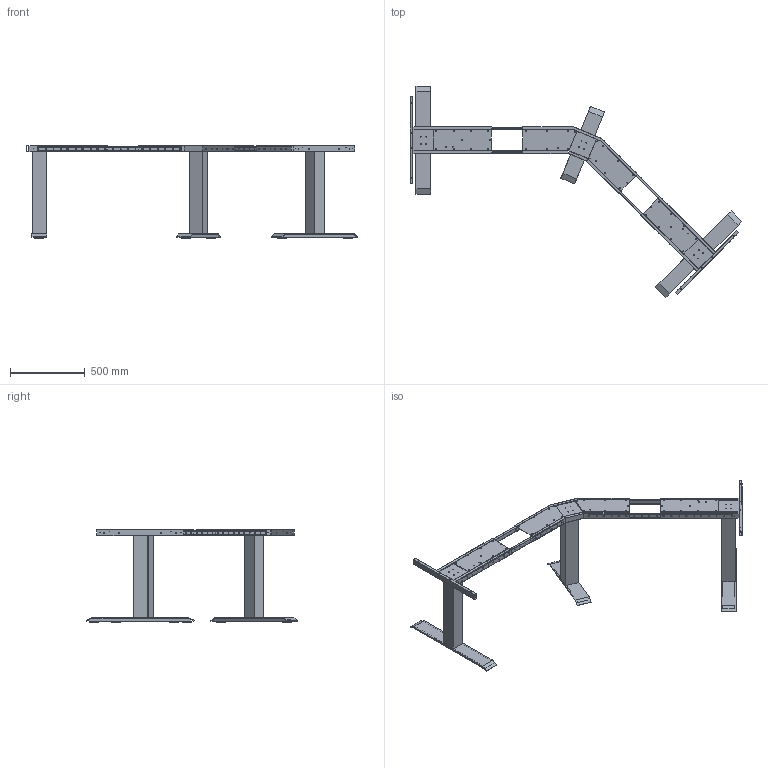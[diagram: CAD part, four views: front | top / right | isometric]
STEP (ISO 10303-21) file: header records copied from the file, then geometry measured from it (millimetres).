
FILE_DESCRIPTION( ( 'STEP AP214' ), '1' );
FILE_NAME( 'C:/Users/swati/Desktop/3D_check/QC/9193257/9193257.stp', ' ', ( ' ' ), ( ' ' ), 'PSStep 15.0.47', 'PARTsolutions', ' ' );
FILE_SCHEMA( ( 'AUTOMOTIVE_DESIGN { 1 0 10303 214 1 1 1 1 }' ) );
Length unit declared in the file: millimetre
Products named in the file (7): 95 ; _
Assembly tree (13 placements, depth 2):
  95 
    _  x2
    _  x3
    _  x2
    _  x4
    _
    _
Bounding box: 2216.34 x 1410.63 x 620.5 mm (x, y, z)
Volume: 20133103.2 mm3; surface area: 3441644.6 mm2
Topology: 13 solids, 13 shells, 540 faces, 1558 edges, 1064 vertices
Faces by surface type: plane 297, cylinder 243
Full cylindrical faces by diameter (mm): 4 x102, 5.5 x16, 6 x48, 6.5 x53, 6.7 x12, 10 x6, 60 x6
Entity records: 12111 total; most frequent: DIRECTION 1589, CARTESIAN_POINT 1575, ORIENTED_EDGE 1414, EDGE_CURVE 707, EDGE_LOOP 689, AXIS2_PLACEMENT_3D 566, VERTEX_POINT 552, LINE 457
